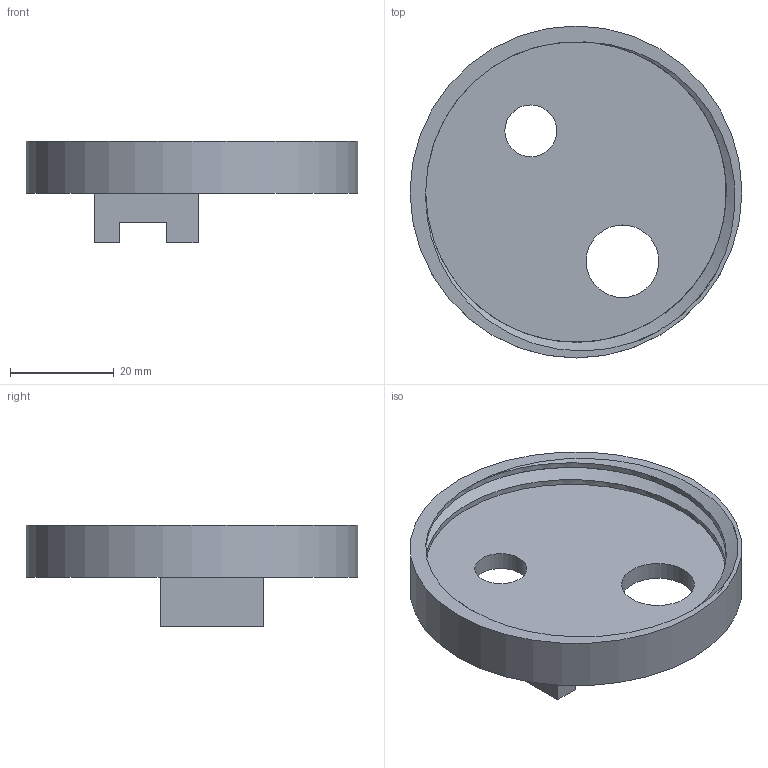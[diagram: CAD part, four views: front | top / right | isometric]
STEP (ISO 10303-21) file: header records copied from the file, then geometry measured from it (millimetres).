
FILE_DESCRIPTION(/* description */ (''),/* implementation_level */ '2;1');
FILE_NAME(/* name */ 'Watercap.step',/* time_stamp */ '2023-06-06T07:00:19-04:00',/* author */ (''),/* organization */ (''),/* preprocessor_version */ 'ST-DEVELOPER v19.2',/* originating_system */ 'Autodesk Translation Framework v12.6.0.85',/* authorisation */ '');
FILE_SCHEMA (('AUTOMOTIVE_DESIGN { 1 0 10303 214 3 1 1 }'));
Length unit declared in the file: millimetre
Products named in the file (1): Watercap
Bounding box: 64 x 64 x 19.58 mm (x, y, z)
Volume: 14862.4 mm3; surface area: 11370.1 mm2
Topology: 1 solids, 1 shells, 47 faces, 127 edges, 84 vertices
Faces by surface type: plane 32, cylinder 11, cone 2, bspline 2
Full cylindrical faces by diameter (mm): 2 x2, 10 x1, 14 x1, 57.97 x1, 62.446 x1, 64 x1
Entity records: 2486 total; most frequent: CARTESIAN_POINT 1288, ORIENTED_EDGE 250, DIRECTION 217, EDGE_CURVE 125, LINE 95, VECTOR 95, VERTEX_POINT 84, AXIS2_PLACEMENT_3D 61
